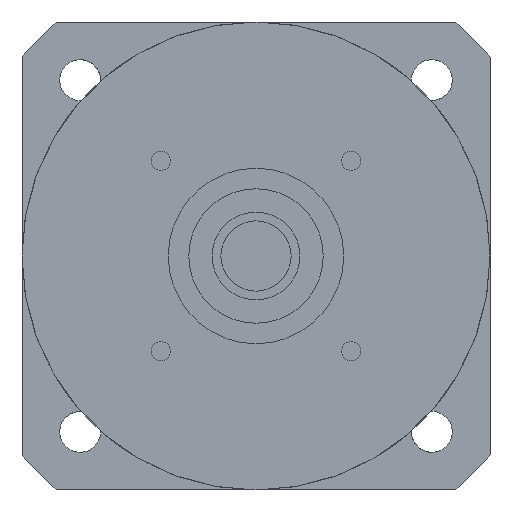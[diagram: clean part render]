
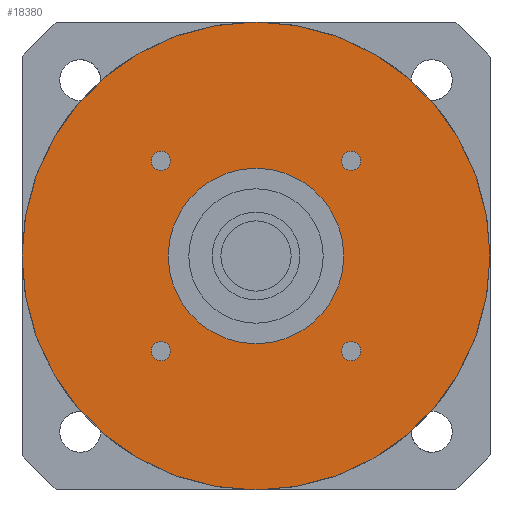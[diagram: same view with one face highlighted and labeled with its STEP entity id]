
A CAD part, left-side view. The second image highlights one B-rep face of the part: STEP entity #18380.
In plain terms, the highlighted planar face has unit normal (-1, 0, 0) as drawn and (0, 0, -1) by its records, which use the part's own axes.
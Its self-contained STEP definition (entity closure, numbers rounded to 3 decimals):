
#14250=CARTESIAN_POINT('',(-17.913,-16.263,-42.));
#14260=VERTEX_POINT('',#14250);
#14310=CARTESIAN_POINT('',(-16.263,-16.263,-42.));
#14320=DIRECTION('',(0.,0.,-1.));
#14330=DIRECTION('',(1.,0.,0.));
#14340=AXIS2_PLACEMENT_3D('',#14310,#14320,#14330);
#14350=CIRCLE('',#14340,1.65);
#14360=CARTESIAN_POINT('',(-14.613,-16.263,-42.));
#14370=VERTEX_POINT('',#14360);
#14380=EDGE_CURVE('',#14370,#14260,#14350,.T.);
#17400=CARTESIAN_POINT('',(-40.,0.,-42.));
#17410=VERTEX_POINT('',#17400);
#17490=CARTESIAN_POINT('',(40.,0.,-42.));
#17500=VERTEX_POINT('',#17490);
#17530=CARTESIAN_POINT('',(0.,0.,
-42.));
#17540=DIRECTION('',(0.,0.,1.));
#17550=DIRECTION('',(1.,0.,0.));
#17560=AXIS2_PLACEMENT_3D('',#17530,#17540,#17550);
#17570=CIRCLE('',#17560,40.);
#17580=EDGE_CURVE('',#17410,#17500,#17570,.T.);
#17630=CARTESIAN_POINT('',(0.,0.,
-42.));
#17640=DIRECTION('',(0.,0.,-1.));
#17650=DIRECTION('',(1.,0.,0.));
#17660=AXIS2_PLACEMENT_3D('',#17630,#17640,#17650);
#17670=PLANE('',#17660);
#17680=CARTESIAN_POINT('',(-16.263,16.263,-42.));
#17690=DIRECTION('',(0.,0.,-1.));
#17700=DIRECTION('',(1.,0.,0.));
#17710=AXIS2_PLACEMENT_3D('',#17680,#17690,#17700);
#17720=CIRCLE('',#17710,1.65);
#17730=CARTESIAN_POINT('',(-14.613,16.263,-42.));
#17740=VERTEX_POINT('',#17730);
#17750=CARTESIAN_POINT('',(-17.913,16.263,-42.));
#17760=VERTEX_POINT('',#17750);
#17770=EDGE_CURVE('',#17740,#17760,#17720,.T.);
#17780=ORIENTED_EDGE('',*,*,#17770,.F.);
#17790=EDGE_CURVE('',#17760,#17740,#17720,.T.);
#17800=ORIENTED_EDGE('',*,*,#17790,.F.);
#17810=EDGE_LOOP('',(#17800,#17780));
#17820=FACE_BOUND('',#17810,.T.);
#17830=CARTESIAN_POINT('',(0.,0.,
-42.));
#17840=DIRECTION('',(0.,0.,1.));
#17850=DIRECTION('',(1.,0.,0.));
#17860=AXIS2_PLACEMENT_3D('',#17830,#17840,#17850);
#17870=CIRCLE('',#17860,15.);
#17880=CARTESIAN_POINT('',(15.,0.,-42.));
#17890=VERTEX_POINT('',#17880);
#17900=CARTESIAN_POINT('',(-15.,0.,-42.));
#17910=VERTEX_POINT('',#17900);
#17920=EDGE_CURVE('',#17890,#17910,#17870,.T.);
#17930=ORIENTED_EDGE('',*,*,#17920,.T.);
#17940=EDGE_CURVE('',#17910,#17890,#17870,.T.);
#17950=ORIENTED_EDGE('',*,*,#17940,.T.);
#17960=EDGE_LOOP('',(#17950,#17930));
#17970=FACE_BOUND('',#17960,.T.);
#17980=CARTESIAN_POINT('',(16.263,16.263,-42.));
#17990=DIRECTION('',(0.,0.,-1.));
#18000=DIRECTION('',(1.,0.,0.));
#18010=AXIS2_PLACEMENT_3D('',#17980,#17990,#18000);
#18020=CIRCLE('',#18010,1.65);
#18030=CARTESIAN_POINT('',(17.913,16.263,-42.));
#18040=VERTEX_POINT('',#18030);
#18050=CARTESIAN_POINT('',(14.613,16.263,-42.));
#18060=VERTEX_POINT('',#18050);
#18070=EDGE_CURVE('',#18040,#18060,#18020,.T.);
#18080=ORIENTED_EDGE('',*,*,#18070,.F.);
#18090=EDGE_CURVE('',#18060,#18040,#18020,.T.);
#18100=ORIENTED_EDGE('',*,*,#18090,.F.);
#18110=EDGE_LOOP('',(#18100,#18080));
#18120=FACE_BOUND('',#18110,.T.);
#18130=CARTESIAN_POINT('',(16.263,-16.263,-42.));
#18140=DIRECTION('',(0.,0.,-1.));
#18150=DIRECTION('',(1.,0.,0.));
#18160=AXIS2_PLACEMENT_3D('',#18130,#18140,#18150);
#18170=CIRCLE('',#18160,1.65);
#18180=CARTESIAN_POINT('',(17.913,-16.263,-42.));
#18190=VERTEX_POINT('',#18180);
#18200=CARTESIAN_POINT('',(14.613,-16.263,-42.));
#18210=VERTEX_POINT('',#18200);
#18220=EDGE_CURVE('',#18190,#18210,#18170,.T.);
#18230=ORIENTED_EDGE('',*,*,#18220,.F.);
#18240=EDGE_CURVE('',#18210,#18190,#18170,.T.);
#18250=ORIENTED_EDGE('',*,*,#18240,.F.);
#18260=EDGE_LOOP('',(#18250,#18230));
#18270=FACE_BOUND('',#18260,.T.);
#18280=ORIENTED_EDGE('',*,*,#14380,.F.);
#18290=EDGE_CURVE('',#14260,#14370,#14350,.T.);
#18300=ORIENTED_EDGE('',*,*,#18290,.F.);
#18310=EDGE_LOOP('',(#18300,#18280));
#18320=FACE_BOUND('',#18310,.T.);
#18330=EDGE_CURVE('',#17500,#17410,#17570,.T.);
#18340=ORIENTED_EDGE('',*,*,#18330,.F.);
#18350=ORIENTED_EDGE('',*,*,#17580,.F.);
#18360=EDGE_LOOP('',(#18350,#18340));
#18370=FACE_OUTER_BOUND('',#18360,.T.);
#18380=ADVANCED_FACE('',(#17820,#17970,#18120,#18270,#18320,#18370),
#17670,.T.);
